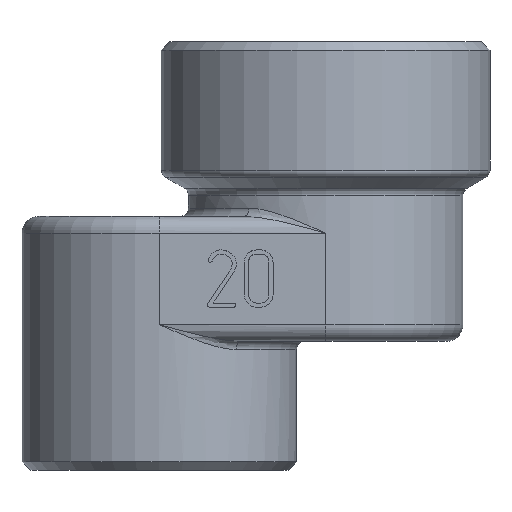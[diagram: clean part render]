
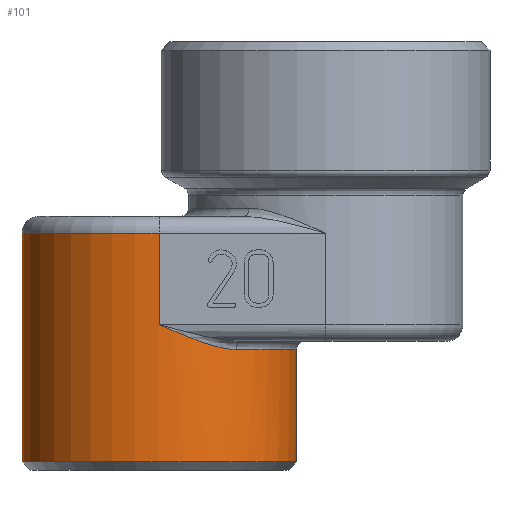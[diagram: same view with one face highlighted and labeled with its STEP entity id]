
A CAD part, left-side view. The second image highlights one B-rep face of the part: STEP entity #101.
In plain terms, the highlighted cylindrical face has radius 16.5 mm (diameter 33 mm), a full revolution.
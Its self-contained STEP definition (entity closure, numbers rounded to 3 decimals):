
#101=ADVANCED_FACE('',(#531,#533),#535,.T.);
#531=FACE_BOUND('',#532,.T.);
#532=EDGE_LOOP('',(#1972,#1973,#1974,#1975,#1976,#1977));
#533=FACE_OUTER_BOUND('',#534,.T.);
#534=EDGE_LOOP('',(#1978));
#535=CYLINDRICAL_SURFACE('',#536,16.5);
#536=AXIS2_PLACEMENT_3D('',#537,#538,#539);
#537=CARTESIAN_POINT('',(0.,0.,0.));
#538=DIRECTION('',(0.,0.,1.));
#539=DIRECTION('',(-1.,0.,0.));
#1972=ORIENTED_EDGE('',*,*,#2453,.F.);
#1973=ORIENTED_EDGE('',*,*,#2454,.F.);
#1974=ORIENTED_EDGE('',*,*,#2455,.F.);
#1975=ORIENTED_EDGE('',*,*,#2456,.F.);
#1976=ORIENTED_EDGE('',*,*,#2297,.T.);
#1977=ORIENTED_EDGE('',*,*,#2457,.F.);
#1978=ORIENTED_EDGE('',*,*,#2458,.T.);
#2297=EDGE_CURVE('',#2606,#2603,#2607,.T.);
#2453=EDGE_CURVE('',#2862,#2863,#2864,.T.);
#2454=EDGE_CURVE('',#2865,#2862,#2866,.T.);
#2455=EDGE_CURVE('',#2867,#2865,#2868,.T.);
#2456=EDGE_CURVE('',#2606,#2867,#2869,.F.);
#2457=EDGE_CURVE('',#2863,#2603,#2870,.T.);
#2458=EDGE_CURVE('',#2871,#2871,#2872,.T.);
#2603=VERTEX_POINT('',#3116);
#2606=VERTEX_POINT('',#3121);
#2607=LINE('',#3122,#3123);
#2862=VERTEX_POINT('',#3703);
#2863=VERTEX_POINT('',#3704);
#2864=LINE('',#3705,#3706);
#2865=VERTEX_POINT('',#3708);
#2866=B_SPLINE_CURVE_WITH_KNOTS('',3,
(#3709,#3710,#3711,#3712,#3713,#3714,#3715,#3716,#3717,#3718,#3719,#3720,#3721,#3722,
#3723,#3724,#3725),
.UNSPECIFIED.,.F.,.F.,
(4,1,1,1,1,1,1,1,1,1,1,1,1,1,4),
(0.,0.065,0.121,0.171,0.228,0.291,
0.366,0.444,0.533,0.625,0.731,
0.827,0.919,0.972,1.),
.UNSPECIFIED.);
#2867=VERTEX_POINT('',#3726);
#2868=CIRCLE('',#3727,16.5);
#2869=B_SPLINE_CURVE_WITH_KNOTS('',3,
(#3731,#3732,#3733,#3734,#3735,#3736,#3737,#3738,#3739,#3740,#3741,#3742,#3743,#3744,
#3745,#3746,#3747),
.UNSPECIFIED.,.F.,.F.,
(4,1,1,1,1,1,1,1,1,1,1,1,1,1,4),
(0.,0.065,0.121,0.171,0.228,0.291,
0.366,0.444,0.533,0.625,0.731,
0.827,0.919,0.972,1.),
.UNSPECIFIED.);
#2870=CIRCLE('',#3748,16.5);
#2871=VERTEX_POINT('',#3752);
#2872=CIRCLE('',#3753,16.5);
#3116=CARTESIAN_POINT('',(-16.5,0.,28.5));
#3121=CARTESIAN_POINT('',(-16.5,0.,17.5));
#3122=CARTESIAN_POINT('',(-16.5,0.,17.5));
#3123=VECTOR('',#3124,1.);
#3124=DIRECTION('',(0.,0.,1.));
#3703=CARTESIAN_POINT('',(16.5,0.,17.5));
#3704=CARTESIAN_POINT('',(16.5,0.,28.5));
#3705=CARTESIAN_POINT('',(16.5,0.,17.5));
#3706=VECTOR('',#3707,1.);
#3707=DIRECTION('',(0.,0.,1.));
#3708=CARTESIAN_POINT('',(13.671,-9.238,14.5));
#3709=CARTESIAN_POINT('',(13.671,-9.238,14.5));
#3710=CARTESIAN_POINT('',(13.799,-9.049,14.499));
#3711=CARTESIAN_POINT('',(14.029,-8.693,14.517));
#3712=CARTESIAN_POINT('',(14.331,-8.184,14.577));
#3713=CARTESIAN_POINT('',(14.6,-7.693,14.662));
#3714=CARTESIAN_POINT('',(14.861,-7.178,14.772));
#3715=CARTESIAN_POINT('',(15.135,-6.584,14.925));
#3716=CARTESIAN_POINT('',(15.407,-5.921,15.122));
#3717=CARTESIAN_POINT('',(15.675,-5.175,15.37));
#3718=CARTESIAN_POINT('',(15.919,-4.371,15.663));
#3719=CARTESIAN_POINT('',(16.138,-3.478,16.012));
#3720=CARTESIAN_POINT('',(16.309,-2.561,16.39));
#3721=CARTESIAN_POINT('',(16.426,-1.642,16.782));
#3722=CARTESIAN_POINT('',(16.481,-0.886,17.112));
#3723=CARTESIAN_POINT('',(16.498,-0.342,17.35));
#3724=CARTESIAN_POINT('',(16.5,-0.088,17.461));
#3725=CARTESIAN_POINT('',(16.5,0.,17.5));
#3726=CARTESIAN_POINT('',(-13.671,-9.238,14.5));
#3727=AXIS2_PLACEMENT_3D('',#3728,#3729,#3730);
#3728=CARTESIAN_POINT('',(0.,0.,14.5));
#3729=DIRECTION('',(0.,0.,1.));
#3730=DIRECTION('',(-0.829,-0.56,0.));
#3731=CARTESIAN_POINT('',(-13.671,-9.238,14.5));
#3732=CARTESIAN_POINT('',(-13.799,-9.049,14.499));
#3733=CARTESIAN_POINT('',(-14.029,-8.693,14.517));
#3734=CARTESIAN_POINT('',(-14.331,-8.184,14.577));
#3735=CARTESIAN_POINT('',(-14.6,-7.693,14.662));
#3736=CARTESIAN_POINT('',(-14.861,-7.178,14.772));
#3737=CARTESIAN_POINT('',(-15.135,-6.584,14.925));
#3738=CARTESIAN_POINT('',(-15.407,-5.921,15.122));
#3739=CARTESIAN_POINT('',(-15.675,-5.175,15.37));
#3740=CARTESIAN_POINT('',(-15.919,-4.371,15.663));
#3741=CARTESIAN_POINT('',(-16.138,-3.478,16.012));
#3742=CARTESIAN_POINT('',(-16.309,-2.561,16.39));
#3743=CARTESIAN_POINT('',(-16.426,-1.642,16.782));
#3744=CARTESIAN_POINT('',(-16.481,-0.886,17.112));
#3745=CARTESIAN_POINT('',(-16.498,-0.342,17.35));
#3746=CARTESIAN_POINT('',(-16.5,-0.088,17.461));
#3747=CARTESIAN_POINT('',(-16.5,0.,17.5));
#3748=AXIS2_PLACEMENT_3D('',#3749,#3750,#3751);
#3749=CARTESIAN_POINT('',(0.,0.,28.5));
#3750=DIRECTION('',(0.,0.,1.));
#3751=DIRECTION('',(1.,0.,0.));
#3752=CARTESIAN_POINT('',(-16.5,0.,1.));
#3753=AXIS2_PLACEMENT_3D('',#3754,#3755,#3756);
#3754=CARTESIAN_POINT('',(0.,0.,1.));
#3755=DIRECTION('',(0.,0.,1.));
#3756=DIRECTION('',(-1.,0.,0.));
